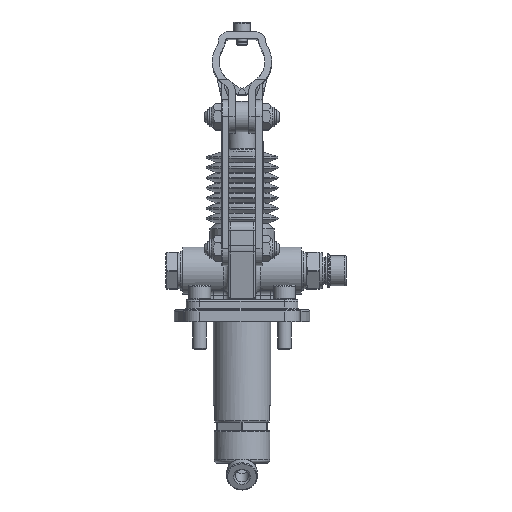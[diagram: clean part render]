
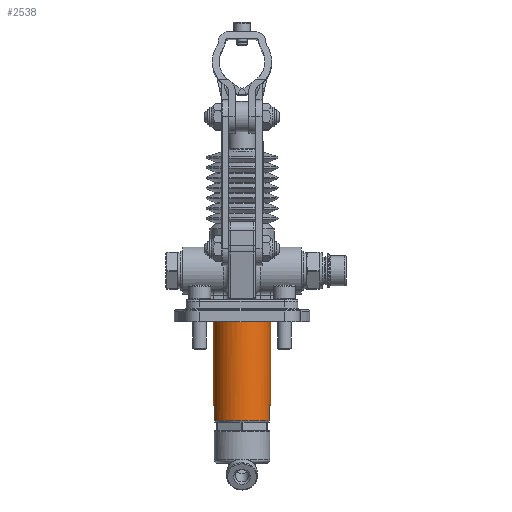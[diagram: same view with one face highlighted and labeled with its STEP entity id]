
A CAD part, left-side view. The second image highlights one B-rep face of the part: STEP entity #2538.
In plain terms, the highlighted cylindrical face has radius 17 mm (diameter 34 mm), a full revolution.
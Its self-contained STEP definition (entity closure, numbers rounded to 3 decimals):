
#2452=CARTESIAN_POINT('',(59.,34.,-60.5));
#2453=DIRECTION('',(0.,0.0,1.0));
#2454=DIRECTION('',(-1.0,0.0,0.0));
#2455=AXIS2_PLACEMENT_3D('',#2452,#2453,#2454);
#2456=CYLINDRICAL_SURFACE('',#2455,17.0);
#2457=CARTESIAN_POINT('',(53.255,50.0,-50.5));
#2458=VERTEX_POINT('',#2457);
#2459=CARTESIAN_POINT('',(53.255,50.0,-59.5));
#2460=VERTEX_POINT('',#2459);
#2461=CARTESIAN_POINT('',(53.255,50.0,-50.5));
#2462=DIRECTION('',(0.0,0.0,-1.0));
#2463=VECTOR('',#2462,9.0);
#2464=LINE('',#2461,#2463);
#2465=EDGE_CURVE('',#2458,#2460,#2464,.T.);
#2466=ORIENTED_EDGE('',*,*,#2465,.T.);
#2467=CARTESIAN_POINT('',(53.255,18.,-59.5));
#2468=VERTEX_POINT('',#2467);
#2469=CARTESIAN_POINT('',(59.,34.,-59.5));
#2470=DIRECTION('',(0.0,0.0,-1.0));
#2471=DIRECTION('',(-1.0,0.0,0.0));
#2472=AXIS2_PLACEMENT_3D('',#2469,#2470,#2471);
#2473=CIRCLE('',#2472,17.0);
#2474=EDGE_CURVE('',#2468,#2460,#2473,.T.);
#2475=ORIENTED_EDGE('',*,*,#2474,.F.);
#2476=CARTESIAN_POINT('',(53.255,18.,-50.5));
#2477=VERTEX_POINT('',#2476);
#2478=CARTESIAN_POINT('',(53.255,18.,-59.5));
#2479=DIRECTION('',(0.0,0.0,1.0));
#2480=VECTOR('',#2479,9.0);
#2481=LINE('',#2478,#2480);
#2482=EDGE_CURVE('',#2468,#2477,#2481,.T.);
#2483=ORIENTED_EDGE('',*,*,#2482,.T.);
#2484=CARTESIAN_POINT('',(64.745,18.,-50.5));
#2485=VERTEX_POINT('',#2484);
#2486=CARTESIAN_POINT('',(59.,34.,-50.5));
#2487=DIRECTION('',(0.0,0.0,1.0));
#2488=DIRECTION('',(-1.0,0.0,0.0));
#2489=AXIS2_PLACEMENT_3D('',#2486,#2487,#2488);
#2490=CIRCLE('',#2489,17.0);
#2491=EDGE_CURVE('',#2477,#2485,#2490,.T.);
#2492=ORIENTED_EDGE('',*,*,#2491,.T.);
#2493=CARTESIAN_POINT('',(64.745,18.,-59.5));
#2494=VERTEX_POINT('',#2493);
#2495=CARTESIAN_POINT('',(64.745,18.,-50.5));
#2496=DIRECTION('',(0.0,0.0,-1.0));
#2497=VECTOR('',#2496,9.0);
#2498=LINE('',#2495,#2497);
#2499=EDGE_CURVE('',#2485,#2494,#2498,.T.);
#2500=ORIENTED_EDGE('',*,*,#2499,.T.);
#2501=CARTESIAN_POINT('',(64.745,50.0,-59.5));
#2502=VERTEX_POINT('',#2501);
#2503=CARTESIAN_POINT('',(59.,34.,-59.5));
#2504=DIRECTION('',(0.0,0.0,-1.0));
#2505=DIRECTION('',(-1.0,0.0,0.0));
#2506=AXIS2_PLACEMENT_3D('',#2503,#2504,#2505);
#2507=CIRCLE('',#2506,17.0);
#2508=EDGE_CURVE('',#2502,#2494,#2507,.T.);
#2509=ORIENTED_EDGE('',*,*,#2508,.F.);
#2510=CARTESIAN_POINT('',(64.745,50.0,-50.5));
#2511=VERTEX_POINT('',#2510);
#2512=CARTESIAN_POINT('',(64.745,50.0,-59.5));
#2513=DIRECTION('',(0.0,0.0,1.0));
#2514=VECTOR('',#2513,9.0);
#2515=LINE('',#2512,#2514);
#2516=EDGE_CURVE('',#2502,#2511,#2515,.T.);
#2517=ORIENTED_EDGE('',*,*,#2516,.T.);
#2518=CARTESIAN_POINT('',(59.,34.,-50.5));
#2519=DIRECTION('',(0.0,0.0,1.0));
#2520=DIRECTION('',(-1.0,0.0,0.0));
#2521=AXIS2_PLACEMENT_3D('',#2518,#2519,#2520);
#2522=CIRCLE('',#2521,17.0);
#2523=EDGE_CURVE('',#2511,#2458,#2522,.T.);
#2524=ORIENTED_EDGE('',*,*,#2523,.T.);
#2525=EDGE_LOOP('',(#2466,#2475,#2483,#2492,#2500,#2509,#2517,#2524));
#2526=FACE_OUTER_BOUND('',#2525,.T.);
#2527=CARTESIAN_POINT('',(76.0,34.,1.25));
#2528=VERTEX_POINT('',#2527);
#2529=CARTESIAN_POINT('',(59.,34.,1.25));
#2530=DIRECTION('',(0.0,0.0,1.0));
#2531=DIRECTION('',(-1.0,0.0,0.0));
#2532=AXIS2_PLACEMENT_3D('',#2529,#2530,#2531);
#2533=CIRCLE('',#2532,17.0);
#2534=EDGE_CURVE('',#2528,#2528,#2533,.T.);
#2535=ORIENTED_EDGE('',*,*,#2534,.F.);
#2536=EDGE_LOOP('',(#2535));
#2537=FACE_BOUND('',#2536,.T.);
#2538=ADVANCED_FACE('',(#2526,#2537),#2456,.T.);
